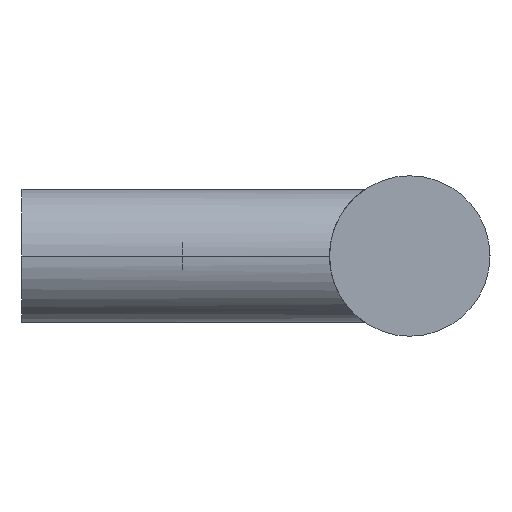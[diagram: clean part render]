
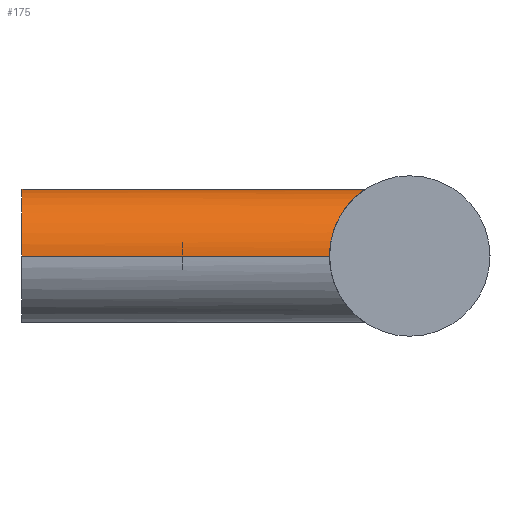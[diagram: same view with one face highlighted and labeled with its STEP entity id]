
A CAD part, left-side view. The second image highlights one B-rep face of the part: STEP entity #175.
In plain terms, the highlighted cylindrical face has radius 5 mm (diameter 10 mm), a partial arc.
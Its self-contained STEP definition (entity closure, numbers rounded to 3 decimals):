
#99 = VERTEX_POINT( '', #258 );
#101 = VERTEX_POINT( '', #260 );
#107 = VERTEX_POINT( '', #266 );
#127 = EDGE_CURVE( '', #107, #99, #289, .T. );
#147 = EDGE_CURVE( '', #235, #101, #314, .T. );
#157 = EDGE_CURVE( '', #101, #107, #325, .T. );
#175 = ADVANCED_FACE( '', ( #344 ), #345, .T. );
#203 = EDGE_CURVE( '', #221, #235, #377, .T. );
#221 = VERTEX_POINT( '', #397 );
#231 = EDGE_CURVE( '', #99, #221, #409, .T. );
#235 = VERTEX_POINT( '', #413 );
#258 = CARTESIAN_POINT( '', ( 5., 0., 0. ) );
#260 = CARTESIAN_POINT( '', ( -5., -23., 0. ) );
#266 = CARTESIAN_POINT( '', ( -5., 0., 0. ) );
#289 = CIRCLE( '', #502, 5. );
#314 = B_SPLINE_CURVE_WITH_KNOTS( '', 3, ( #533, #534, #535, #536, #537, #538, #539, #540, #541, #542, #543, #544, #545, #546, #547, #548, #549, #550 ), .UNSPECIFIED., .F., .F., ( 4, 2, 2, 2, 2, 2, 2, 2, 4 ), ( 0., 1.041, 2.083, 3.124, 4.165, 5.164, 6.163, 7.162, 8.161 ), .UNSPECIFIED. );
#325 = LINE( '', #598, #599 );
#344 = FACE_OUTER_BOUND( '', #641, .T. );
#345 = CYLINDRICAL_SURFACE( '', #642, 5. );
#377 = B_SPLINE_CURVE_WITH_KNOTS( '', 3, ( #678, #679, #680, #681, #682, #683, #684, #685, #686, #687, #688, #689, #690, #691, #692, #693, #694, #695 ), .UNSPECIFIED., .F., .F., ( 4, 2, 2, 2, 2, 2, 2, 2, 4 ), ( 24.483, 25.482, 26.481, 27.479, 28.478, 29.52, 30.561, 31.602, 32.643 ), .UNSPECIFIED. );
#397 = CARTESIAN_POINT( '', ( 5., -23., 0. ) );
#409 = LINE( '', #751, #752 );
#413 = CARTESIAN_POINT( '', ( 0., -25.683, 5. ) );
#502 = AXIS2_PLACEMENT_3D( '', #797, #798, #799 );
#533 = CARTESIAN_POINT( '', ( 0., -25.683, 5. ) );
#534 = CARTESIAN_POINT( '', ( -0.347, -25.683, 5. ) );
#535 = CARTESIAN_POINT( '', ( -0.687, -25.627, 4.964 ) );
#536 = CARTESIAN_POINT( '', ( -1.343, -25.436, 4.828 ) );
#537 = CARTESIAN_POINT( '', ( -1.659, -25.301, 4.728 ) );
#538 = CARTESIAN_POINT( '', ( -2.259, -24.995, 4.472 ) );
#539 = CARTESIAN_POINT( '', ( -2.544, -24.825, 4.316 ) );
#540 = CARTESIAN_POINT( '', ( -3.073, -24.483, 3.957 ) );
#541 = CARTESIAN_POINT( '', ( -3.317, -24.311, 3.754 ) );
#542 = CARTESIAN_POINT( '', ( -3.745, -24., 3.326 ) );
#543 = CARTESIAN_POINT( '', ( -3.946, -23.847, 3.088 ) );
#544 = CARTESIAN_POINT( '', ( -4.306, -23.566, 2.561 ) );
#545 = CARTESIAN_POINT( '', ( -4.467, -23.437, 2.272 ) );
#546 = CARTESIAN_POINT( '', ( -4.728, -23.225, 1.659 ) );
#547 = CARTESIAN_POINT( '', ( -4.83, -23.141, 1.335 ) );
#548 = CARTESIAN_POINT( '', ( -4.966, -23.028, 0.672 ) );
#549 = CARTESIAN_POINT( '', ( -5., -23., 0.333 ) );
#550 = CARTESIAN_POINT( '', ( -5., -23., 0. ) );
#598 = CARTESIAN_POINT( '', ( -5., 0., 0. ) );
#599 = VECTOR( '', #852, 1. );
#641 = EDGE_LOOP( '', ( #872, #873, #874, #875, #876 ) );
#642 = AXIS2_PLACEMENT_3D( '', #877, #878, #879 );
#678 = CARTESIAN_POINT( '', ( 5., -23., 0. ) );
#679 = CARTESIAN_POINT( '', ( 5., -23., 0.333 ) );
#680 = CARTESIAN_POINT( '', ( 4.966, -23.028, 0.672 ) );
#681 = CARTESIAN_POINT( '', ( 4.83, -23.141, 1.335 ) );
#682 = CARTESIAN_POINT( '', ( 4.728, -23.225, 1.659 ) );
#683 = CARTESIAN_POINT( '', ( 4.467, -23.437, 2.272 ) );
#684 = CARTESIAN_POINT( '', ( 4.306, -23.566, 2.561 ) );
#685 = CARTESIAN_POINT( '', ( 3.946, -23.847, 3.088 ) );
#686 = CARTESIAN_POINT( '', ( 3.745, -24., 3.326 ) );
#687 = CARTESIAN_POINT( '', ( 3.317, -24.311, 3.754 ) );
#688 = CARTESIAN_POINT( '', ( 3.073, -24.483, 3.957 ) );
#689 = CARTESIAN_POINT( '', ( 2.544, -24.825, 4.316 ) );
#690 = CARTESIAN_POINT( '', ( 2.259, -24.995, 4.472 ) );
#691 = CARTESIAN_POINT( '', ( 1.659, -25.301, 4.728 ) );
#692 = CARTESIAN_POINT( '', ( 1.343, -25.436, 4.828 ) );
#693 = CARTESIAN_POINT( '', ( 0.687, -25.627, 4.964 ) );
#694 = CARTESIAN_POINT( '', ( 0.347, -25.683, 5. ) );
#695 = CARTESIAN_POINT( '', ( 0., -25.683, 5. ) );
#751 = CARTESIAN_POINT( '', ( 5., 0., 0. ) );
#752 = VECTOR( '', #944, 1. );
#797 = CARTESIAN_POINT( '', ( 0., 0., 0. ) );
#798 = DIRECTION( '', ( 0., 1., 0. ) );
#799 = DIRECTION( '', ( 1., 0., 0. ) );
#852 = DIRECTION( '', ( 0., 1., 0. ) );
#872 = ORIENTED_EDGE( '', *, *, #231, .F. );
#873 = ORIENTED_EDGE( '', *, *, #127, .F. );
#874 = ORIENTED_EDGE( '', *, *, #157, .F. );
#875 = ORIENTED_EDGE( '', *, *, #147, .F. );
#876 = ORIENTED_EDGE( '', *, *, #203, .F. );
#877 = CARTESIAN_POINT( '', ( 0., 0., 0. ) );
#878 = DIRECTION( '', ( 0., 1., 0. ) );
#879 = DIRECTION( '', ( 1., 0., 0. ) );
#944 = DIRECTION( '', ( 0., -1., 0. ) );
